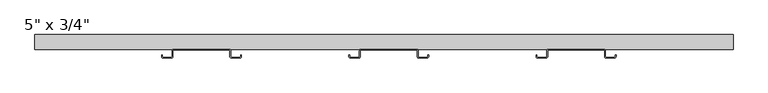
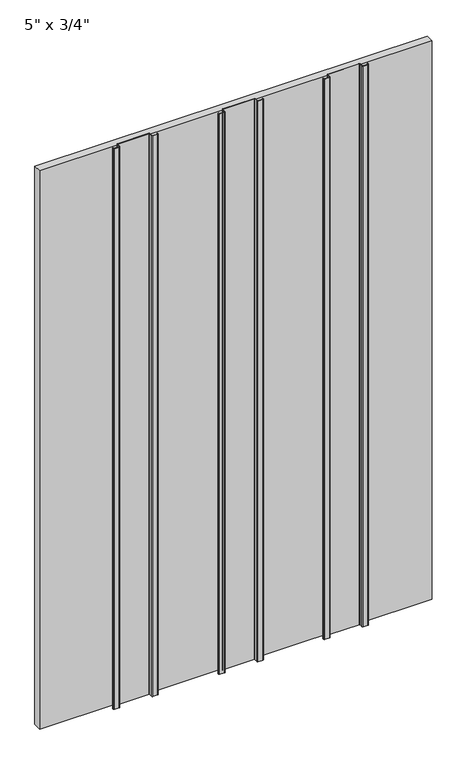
"""IFC4 building model written with IfcOpenShell, lengths in millimetres: plate geometry."""

from ifc_helpers import new_model, si_unit, point, frame, frame_2d, origin, origin_with_axes, place, context, project, spatial, polyline, circle_curve, trimmed, segment, composite_curve, outline, extrude, source, transform, mapped, element, save


def plate_ec5ddb99(model_context):
    return source(origin(), model_context, "Body", "SweptSolid", [
        extrude(outline(composite_curve([segment(polyline([(-76.2000002, 3.175), (-76.2000002, 6.35), (-74.6125002, 6.35), (-74.6125002, 3.175)]), True, "CONTINUOUS"), segment(trimmed(circle_curve(frame_2d((-73.0250002, 3.175)), 1.5875), [point((-74.6125002, 3.175))], [point((-73.0250002, 1.5875))], True, "CARTESIAN"), True, "CONTINUOUS"), segment(polyline([(-73.0250002, 1.5875), (-54.7624002, 1.5875)]), True, "CONTINUOUS"), segment(trimmed(circle_curve(frame_2d((-54.7624002, 3.175)), 1.5875), [point((-54.7624002, 1.5875))], [point((-53.1749002, 3.175))], True, "CARTESIAN"), True, "CONTINUOUS"), segment(polyline([(-53.1749002, 3.175), (-53.1749002, 15.875)]), True, "CONTINUOUS"), segment(trimmed(circle_curve(frame_2d((-49.9999002, 15.875)), 3.175), [point((-53.1749002, 15.875))], [point((-49.9999002, 19.05))], False, "CARTESIAN"), True, "CONTINUOUS"), segment(polyline([(-49.9999002, 19.05), (70.6500998, 19.05)]), True, "CONTINUOUS"), segment(trimmed(circle_curve(frame_2d((70.6500998, 15.875)), 3.175), [point((70.6500998, 19.05))], [point((73.8250998, 15.875))], False, "CARTESIAN"), True, "CONTINUOUS"), segment(polyline([(73.8250998, 15.875), (73.8250998, 3.175)]), True, "CONTINUOUS"), segment(trimmed(circle_curve(frame_2d((75.4125998, 3.175)), 1.5875), [point((73.8250998, 3.175))], [point((75.4125998, 1.5875))], True, "CARTESIAN"), True, "CONTINUOUS"), segment(polyline([(75.4125998, 1.5875), (93.6751998, 1.5875)]), True, "CONTINUOUS"), segment(trimmed(circle_curve(frame_2d((93.6751998, 3.175)), 1.5875), [point((93.6751998, 1.5875))], [point((95.2626998, 3.175))], True, "CARTESIAN"), True, "CONTINUOUS"), segment(polyline([(95.2626998, 3.175), (95.2626998, 6.35), (96.8501998, 6.35), (96.8501998, 3.175)]), True, "CONTINUOUS"), segment(trimmed(circle_curve(frame_2d((93.6751998, 3.175)), 3.175), [point((96.8501998, 3.175))], [point((93.6751998, 0.0))], False, "CARTESIAN"), True, "CONTINUOUS"), segment(polyline([(93.6751998, 0.0), (75.4125998, 0.0)]), True, "CONTINUOUS"), segment(trimmed(circle_curve(frame_2d((75.4125998, 3.175)), 3.175), [point((75.4125998, 0.0))], [point((72.2375998, 3.175))], False, "CARTESIAN"), True, "CONTINUOUS"), segment(polyline([(72.2375998, 3.175), (72.2375998, 15.875)]), True, "CONTINUOUS"), segment(trimmed(circle_curve(frame_2d((70.6500998, 15.875)), 1.5875), [point((72.2375998, 15.875))], [point((70.6500998, 17.4625))], True, "CARTESIAN"), True, "CONTINUOUS"), segment(polyline([(70.6500998, 17.4625), (-49.9999002, 17.4625)]), True, "CONTINUOUS"), segment(trimmed(circle_curve(frame_2d((-49.9999002, 15.875)), 1.5875), [point((-49.9999002, 17.4625))], [point((-51.5874002, 15.875))], True, "CARTESIAN"), True, "CONTINUOUS"), segment(polyline([(-51.5874002, 15.875), (-51.5874002, 3.175)]), True, "CONTINUOUS"), segment(trimmed(circle_curve(frame_2d((-54.7624002, 3.175)), 3.175), [point((-51.5874002, 3.175))], [point((-54.7624002, 0.0))], False, "CARTESIAN"), True, "CONTINUOUS"), segment(polyline([(-54.7624002, 0.0), (-73.0250002, 0.0)]), True, "CONTINUOUS"), segment(trimmed(circle_curve(frame_2d((-73.0250002, 3.175)), 3.175), [point((-73.0250002, 0.0))], [point((-76.2000002, 3.175))], False, "CARTESIAN"), True, "CONTINUOUS")], self_intersect=False)), origin_with_axes(), (0.0, 0.0, 1.0), 2286.0),
        extrude(outline(composite_curve([segment(polyline([(330.1999998, 3.175), (330.1999998, 6.35), (331.7874998, 6.35), (331.7874998, 3.175)]), True, "CONTINUOUS"), segment(trimmed(circle_curve(frame_2d((333.3749998, 3.175)), 1.5875), [point((331.7874998, 3.175))], [point((333.3749998, 1.5875))], True, "CARTESIAN"), True, "CONTINUOUS"), segment(polyline([(333.3749998, 1.5875), (351.6375998, 1.5875)]), True, "CONTINUOUS"), segment(trimmed(circle_curve(frame_2d((351.6375998, 3.175)), 1.5875), [point((351.6375998, 1.5875))], [point((353.2250998, 3.175))], True, "CARTESIAN"), True, "CONTINUOUS"), segment(polyline([(353.2250998, 3.175), (353.2250998, 15.875)]), True, "CONTINUOUS"), segment(trimmed(circle_curve(frame_2d((356.4000998, 15.875)), 3.175), [point((353.2250998, 15.875))], [point((356.4000998, 19.05))], False, "CARTESIAN"), True, "CONTINUOUS"), segment(polyline([(356.4000998, 19.05), (477.0500998, 19.05)]), True, "CONTINUOUS"), segment(trimmed(circle_curve(frame_2d((477.0500998, 15.875)), 3.175), [point((477.0500998, 19.05))], [point((480.2250998, 15.875))], False, "CARTESIAN"), True, "CONTINUOUS"), segment(polyline([(480.2250998, 15.875), (480.2250998, 3.175)]), True, "CONTINUOUS"), segment(trimmed(circle_curve(frame_2d((481.8125998, 3.175)), 1.5875), [point((480.2250998, 3.175))], [point((481.8125998, 1.5875))], True, "CARTESIAN"), True, "CONTINUOUS"), segment(polyline([(481.8125998, 1.5875), (500.0751998, 1.5875)]), True, "CONTINUOUS"), segment(trimmed(circle_curve(frame_2d((500.0751998, 3.175)), 1.5875), [point((500.0751998, 1.5875))], [point((501.6626998, 3.175))], True, "CARTESIAN"), True, "CONTINUOUS"), segment(polyline([(501.6626998, 3.175), (501.6626998, 6.35), (503.2501998, 6.35), (503.2501998, 3.175)]), True, "CONTINUOUS"), segment(trimmed(circle_curve(frame_2d((500.0751998, 3.175)), 3.175), [point((503.2501998, 3.175))], [point((500.0751998, 0.0))], False, "CARTESIAN"), True, "CONTINUOUS"), segment(polyline([(500.0751998, 0.0), (481.8125998, 0.0)]), True, "CONTINUOUS"), segment(trimmed(circle_curve(frame_2d((481.8125998, 3.175)), 3.175), [point((481.8125998, 0.0))], [point((478.6375998, 3.175))], False, "CARTESIAN"), True, "CONTINUOUS"), segment(polyline([(478.6375998, 3.175), (478.6375998, 15.875)]), True, "CONTINUOUS"), segment(trimmed(circle_curve(frame_2d((477.0500998, 15.875)), 1.5875), [point((478.6375998, 15.875))], [point((477.0500998, 17.4625))], True, "CARTESIAN"), True, "CONTINUOUS"), segment(polyline([(477.0500998, 17.4625), (356.4000998, 17.4625)]), True, "CONTINUOUS"), segment(trimmed(circle_curve(frame_2d((356.4000998, 15.875)), 1.5875), [point((356.4000998, 17.4625))], [point((354.8125998, 15.875))], True, "CARTESIAN"), True, "CONTINUOUS"), segment(polyline([(354.8125998, 15.875), (354.8125998, 3.175)]), True, "CONTINUOUS"), segment(trimmed(circle_curve(frame_2d((351.6375998, 3.175)), 3.175), [point((354.8125998, 3.175))], [point((351.6375998, 0.0))], False, "CARTESIAN"), True, "CONTINUOUS"), segment(polyline([(351.6375998, 0.0), (333.3749998, 0.0)]), True, "CONTINUOUS"), segment(trimmed(circle_curve(frame_2d((333.3749998, 3.175)), 3.175), [point((333.3749998, 0.0))], [point((330.1999998, 3.175))], False, "CARTESIAN"), True, "CONTINUOUS")], self_intersect=False)), origin_with_axes(), (0.0, 0.0, 1.0), 2286.0),
        extrude(outline(composite_curve([segment(polyline([(-482.6000002, 3.175), (-482.6000002, 6.35), (-481.0125002, 6.35), (-481.0125002, 3.175)]), True, "CONTINUOUS"), segment(trimmed(circle_curve(frame_2d((-479.4250002, 3.175)), 1.5875), [point((-481.0125002, 3.175))], [point((-479.4250002, 1.5875))], True, "CARTESIAN"), True, "CONTINUOUS"), segment(polyline([(-479.4250002, 1.5875), (-461.1624002, 1.5875)]), True, "CONTINUOUS"), segment(trimmed(circle_curve(frame_2d((-461.1624002, 3.175)), 1.5875), [point((-461.1624002, 1.5875))], [point((-459.5749002, 3.175))], True, "CARTESIAN"), True, "CONTINUOUS"), segment(polyline([(-459.5749002, 3.175), (-459.5749002, 15.875)]), True, "CONTINUOUS"), segment(trimmed(circle_curve(frame_2d((-456.3999002, 15.875)), 3.175), [point((-459.5749002, 15.875))], [point((-456.3999002, 19.05))], False, "CARTESIAN"), True, "CONTINUOUS"), segment(polyline([(-456.3999002, 19.05), (-335.7499002, 19.05)]), True, "CONTINUOUS"), segment(trimmed(circle_curve(frame_2d((-335.7499002, 15.875)), 3.175), [point((-335.7499002, 19.05))], [point((-332.5749002, 15.875))], False, "CARTESIAN"), True, "CONTINUOUS"), segment(polyline([(-332.5749002, 15.875), (-332.5749002, 3.175)]), True, "CONTINUOUS"), segment(trimmed(circle_curve(frame_2d((-330.9874002, 3.175)), 1.5875), [point((-332.5749002, 3.175))], [point((-330.9874002, 1.5875))], True, "CARTESIAN"), True, "CONTINUOUS"), segment(polyline([(-330.9874002, 1.5875), (-312.7248002, 1.5875)]), True, "CONTINUOUS"), segment(trimmed(circle_curve(frame_2d((-312.7248002, 3.175)), 1.5875), [point((-312.7248002, 1.5875))], [point((-311.1373002, 3.175))], True, "CARTESIAN"), True, "CONTINUOUS"), segment(polyline([(-311.1373002, 3.175), (-311.1373002, 6.35), (-309.5498002, 6.35), (-309.5498002, 3.175)]), True, "CONTINUOUS"), segment(trimmed(circle_curve(frame_2d((-312.7248002, 3.175)), 3.175), [point((-309.5498002, 3.175))], [point((-312.7248002, 0.0))], False, "CARTESIAN"), True, "CONTINUOUS"), segment(polyline([(-312.7248002, 0.0), (-330.9874002, 0.0)]), True, "CONTINUOUS"), segment(trimmed(circle_curve(frame_2d((-330.9874002, 3.175)), 3.175), [point((-330.9874002, 0.0))], [point((-334.1624002, 3.175))], False, "CARTESIAN"), True, "CONTINUOUS"), segment(polyline([(-334.1624002, 3.175), (-334.1624002, 15.875)]), True, "CONTINUOUS"), segment(trimmed(circle_curve(frame_2d((-335.7499002, 15.875)), 1.5875), [point((-334.1624002, 15.875))], [point((-335.7499002, 17.4625))], True, "CARTESIAN"), True, "CONTINUOUS"), segment(polyline([(-335.7499002, 17.4625), (-456.3999002, 17.4625)]), True, "CONTINUOUS"), segment(trimmed(circle_curve(frame_2d((-456.3999002, 15.875)), 1.5875), [point((-456.3999002, 17.4625))], [point((-457.9874002, 15.875))], True, "CARTESIAN"), True, "CONTINUOUS"), segment(polyline([(-457.9874002, 15.875), (-457.9874002, 3.175)]), True, "CONTINUOUS"), segment(trimmed(circle_curve(frame_2d((-461.1624002, 3.175)), 3.175), [point((-457.9874002, 3.175))], [point((-461.1624002, 0.0))], False, "CARTESIAN"), True, "CONTINUOUS"), segment(polyline([(-461.1624002, 0.0), (-479.4250002, 0.0)]), True, "CONTINUOUS"), segment(trimmed(circle_curve(frame_2d((-479.4250002, 3.175)), 3.175), [point((-479.4250002, 0.0))], [point((-482.6000002, 3.175))], False, "CARTESIAN"), True, "CONTINUOUS")], self_intersect=False)), origin_with_axes(), (0.0, 0.0, 1.0), 2286.0),
        extrude(outline(polyline([(757.2375002, 19.05), (-757.2375002, 19.05), (-757.2375002, 50.8), (757.2375002, 50.8), (757.2375002, 19.05)])), frame((0.0, 0.0, 4.7625), z_axis=(0.0, 0.0, 1.0), x_axis=(1.0, 0.0, 0.0)), (0.0, 0.0, 1.0), 2276.475),
    ])


if __name__ == "__main__":
    model = new_model("IFC4")
    model_context = context("Model", 3, world=origin())
    ifc_project = project(units=[si_unit("LENGTHUNIT", "METRE", prefix="MILLI")], contexts=[model_context])
    site = spatial("IfcSite", under=ifc_project)
    building = spatial("IfcBuilding", under=site)
    placement = place(None, origin())
    plate_shape = plate_ec5ddb99(model_context)
    element("IfcPlate", 1, ObjectType="KWS_Generic-Panel_w_PanelRail-V : 5\" x 3/4\"", at=placement, inside=building, context=model_context, shape_type="MappedRepresentation", body=[
        mapped(plate_shape, transform((0.0, 0.0, 0.0), x_axis=(1.0, 0.0, 0.0), y_axis=(0.0, 1.0, 0.0), z_axis=(0.0, 0.0, 1.0))),
    ])
    save(model, "model.ifc")
